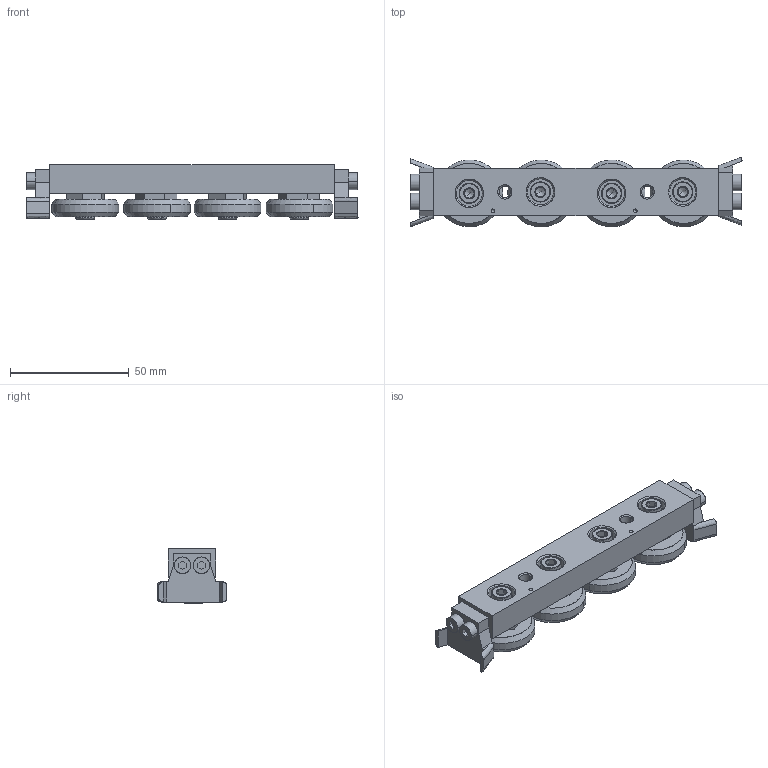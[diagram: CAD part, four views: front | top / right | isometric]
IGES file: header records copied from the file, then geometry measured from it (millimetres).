
Start section: SolidWorks IGES file using analytic representation for surfaces
Global section: file name: C:\Users\liam_\OneDrive\Documents\WORK\Work for WixRoyd\Job Files\J-00018 - L1918-L1963 LCompact Rail\L1935_v2\L1935.CSW35_v2\L1935.CSW35_v2_20190522_IGES\L1935.CSW35-120-2ZUB.igs; native system: SolidWorks 2017; preprocessor: SolidWorks 2017; author: liam_; date: 190528.222731; units: millimetre
Bounding box: 140 x 29.4 x 22.85 mm (x, y, z)
Surface area: 22742.6 mm2 (no closed solid volume)
Topology: 0 solids, 0 shells, 422 faces, 4988 edges, 4964 vertices
Faces by surface type: revolution 216, bspline 206
